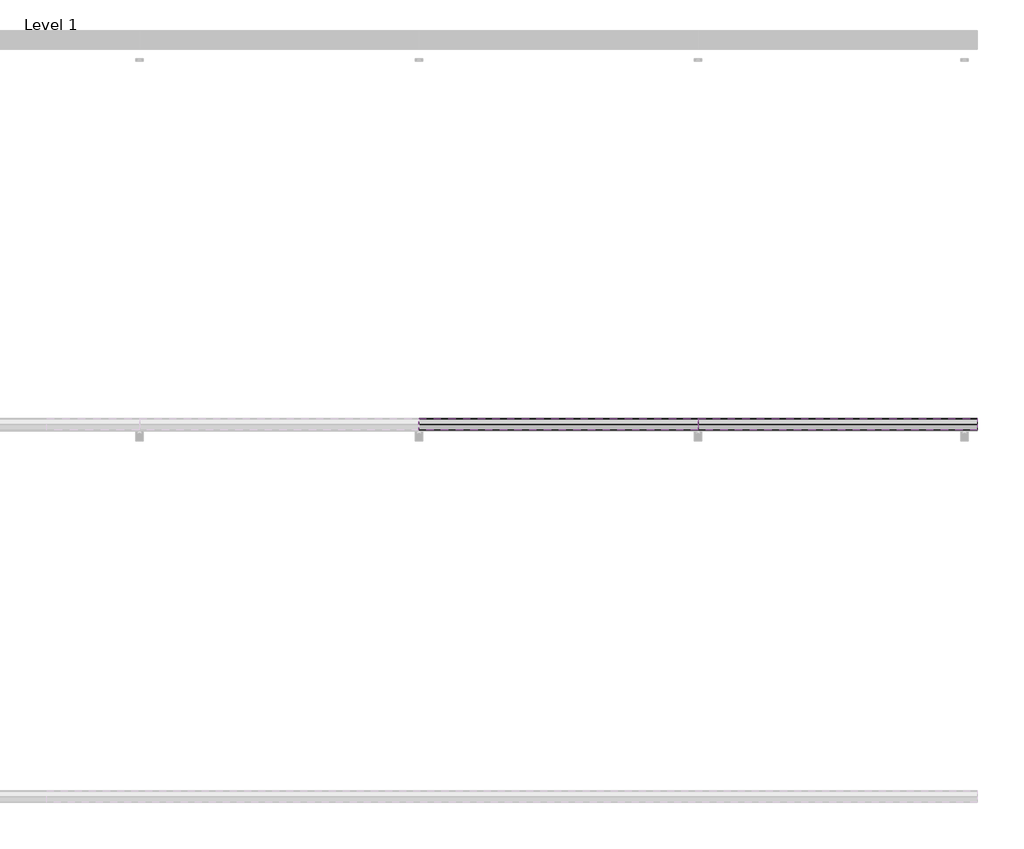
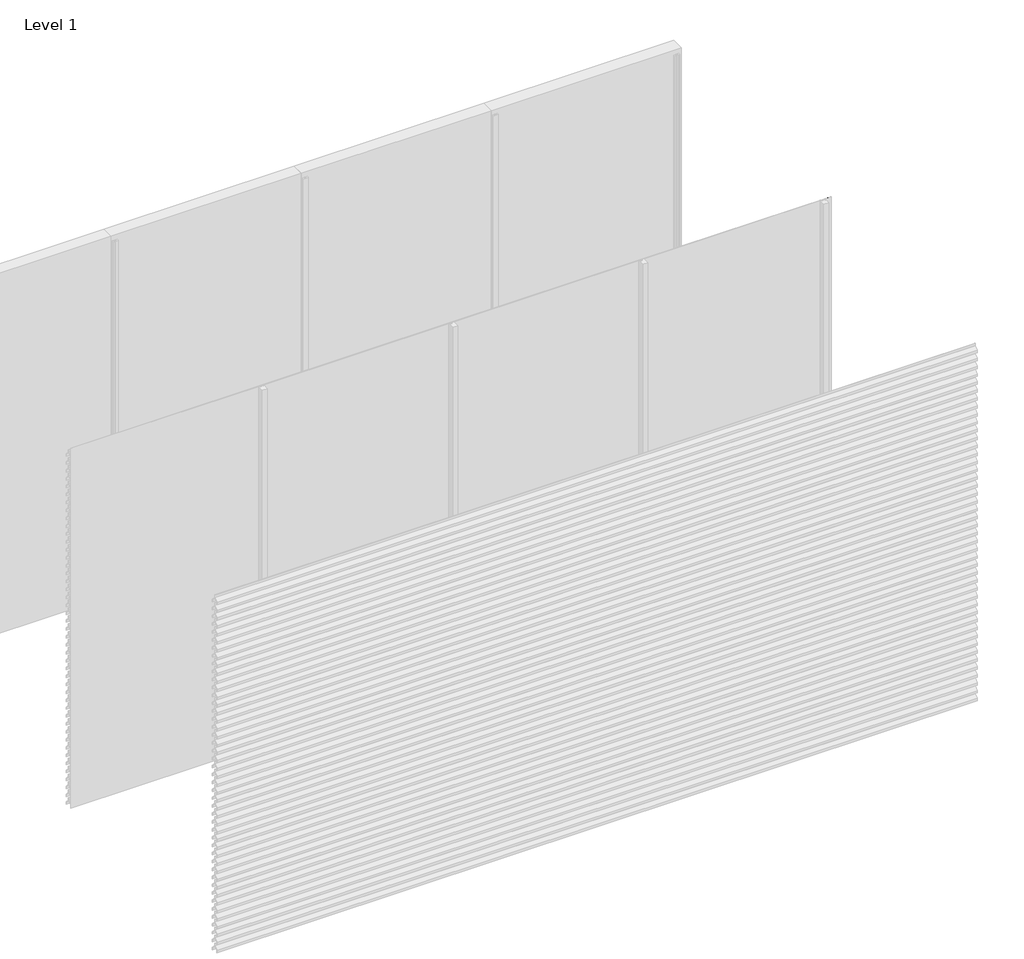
# One storey, part 18 of 35: 70 proxies.
"""IFC4 building model written with IfcOpenShell, lengths in millimetres."""

from ifc_helpers import new_model, si_unit, frame, origin, place, context, project, spatial, polyline, outline, extrude, element, save

model = new_model("IFC4")

# Units and contexts
model_context = context("Model", 3, world=origin())
ifc_project = project(units=[si_unit("LENGTHUNIT", "METRE", prefix="MILLI")], contexts=[model_context])

# Site, building, storey
site = spatial("IfcSite", under=ifc_project)
building = spatial("IfcBuilding", under=site)
storey = spatial("IfcBuildingStorey", under=building, Name="Level 1", Elevation=0.0)

# Proxies
placement = place(None, origin())
element("IfcBuildingElementProxy", 1, Name="Wall Sweeps", at=placement, inside=storey, context=model_context, shape_type="SweptSolid", body=[
    extrude(outline(polyline([(-29936.0, 1992.0), (-29936.0, 1972.0), (-29937.25, 1972.0), (-29937.25, 1991.4342979), (-29968.1138939, 2024.531772), (-29996.7, 2004.4392868), (-29996.7, 1985.6629874), (-29998.0, 1984.8506572), (-29998.0, 2005.1145472), (-29968.537525, 2025.823011), (-29968.537525, 2046.0), (-29967.1772624, 2046.0), (-29967.1772624, 2025.4335207), (-29936.0, 1992.0)])), frame((3000.0, 0.0, 0.0), z_axis=(1.0, 0.0, 0.0), x_axis=(0.0, 1.0, 0.0)), (0.0, 0.0, 1.0), 1500.0),
])
element("IfcBuildingElementProxy", 2, Name="Wall Sweeps", at=placement, inside=storey, context=model_context, shape_type="SweptSolid", body=[
    extrude(outline(polyline([(-29936.0, 1926.0), (-29936.0, 1906.0), (-29937.25, 1906.0), (-29937.25, 1925.4342979), (-29968.1138939, 1958.531772), (-29996.7, 1938.4392868), (-29996.7, 1919.6629874), (-29998.0, 1918.8506572), (-29998.0, 1939.1145472), (-29968.537525, 1959.823011), (-29968.537525, 1980.0), (-29967.1772624, 1980.0), (-29967.1772624, 1959.4335207), (-29936.0, 1926.0)])), frame((3000.0, 0.0, 0.0), z_axis=(1.0, 0.0, 0.0), x_axis=(0.0, 1.0, 0.0)), (0.0, 0.0, 1.0), 1500.0),
])
element("IfcBuildingElementProxy", 3, Name="Wall Sweeps", at=placement, inside=storey, context=model_context, shape_type="SweptSolid", body=[
    extrude(outline(polyline([(-29936.0, 1860.0), (-29936.0, 1840.0), (-29937.25, 1840.0), (-29937.25, 1859.4342979), (-29968.1138939, 1892.531772), (-29996.7, 1872.4392868), (-29996.7, 1853.6629874), (-29998.0, 1852.8506572), (-29998.0, 1873.1145472), (-29968.537525, 1893.823011), (-29968.537525, 1914.0), (-29967.1772624, 1914.0), (-29967.1772624, 1893.4335207), (-29936.0, 1860.0)])), frame((3000.0, 0.0, 0.0), z_axis=(1.0, 0.0, 0.0), x_axis=(0.0, 1.0, 0.0)), (0.0, 0.0, 1.0), 1500.0),
])
element("IfcBuildingElementProxy", 4, Name="Wall Sweeps", at=placement, inside=storey, context=model_context, shape_type="SweptSolid", body=[
    extrude(outline(polyline([(-29936.0, 1794.0), (-29936.0, 1774.0), (-29937.25, 1774.0), (-29937.25, 1793.4342979), (-29968.1138939, 1826.531772), (-29996.7, 1806.4392868), (-29996.7, 1787.6629874), (-29998.0, 1786.8506572), (-29998.0, 1807.1145472), (-29968.537525, 1827.823011), (-29968.537525, 1848.0), (-29967.1772624, 1848.0), (-29967.1772624, 1827.4335207), (-29936.0, 1794.0)])), frame((3000.0, 0.0, 0.0), z_axis=(1.0, 0.0, 0.0), x_axis=(0.0, 1.0, 0.0)), (0.0, 0.0, 1.0), 1500.0),
])
element("IfcBuildingElementProxy", 5, Name="Wall Sweeps", at=placement, inside=storey, context=model_context, shape_type="SweptSolid", body=[
    extrude(outline(polyline([(-29936.0, 1728.0), (-29936.0, 1708.0), (-29937.25, 1708.0), (-29937.25, 1727.4342979), (-29968.1138939, 1760.531772), (-29996.7, 1740.4392868), (-29996.7, 1721.6629874), (-29998.0, 1720.8506572), (-29998.0, 1741.1145472), (-29968.537525, 1761.823011), (-29968.537525, 1782.0), (-29967.1772624, 1782.0), (-29967.1772624, 1761.4335207), (-29936.0, 1728.0)])), frame((3000.0, 0.0, 0.0), z_axis=(1.0, 0.0, 0.0), x_axis=(0.0, 1.0, 0.0)), (0.0, 0.0, 1.0), 1500.0),
])
element("IfcBuildingElementProxy", 6, Name="Wall Sweeps", at=placement, inside=storey, context=model_context, shape_type="SweptSolid", body=[
    extrude(outline(polyline([(-29936.0, 1662.0), (-29936.0, 1642.0), (-29937.25, 1642.0), (-29937.25, 1661.4342979), (-29968.1138939, 1694.531772), (-29996.7, 1674.4392868), (-29996.7, 1655.6629874), (-29998.0, 1654.8506572), (-29998.0, 1675.1145472), (-29968.537525, 1695.823011), (-29968.537525, 1716.0), (-29967.1772624, 1716.0), (-29967.1772624, 1695.4335207), (-29936.0, 1662.0)])), frame((3000.0, 0.0, 0.0), z_axis=(1.0, 0.0, 0.0), x_axis=(0.0, 1.0, 0.0)), (0.0, 0.0, 1.0), 1500.0),
])
element("IfcBuildingElementProxy", 7, Name="Wall Sweeps", at=placement, inside=storey, context=model_context, shape_type="SweptSolid", body=[
    extrude(outline(polyline([(-29936.0, 1596.0), (-29936.0, 1576.0), (-29937.25, 1576.0), (-29937.25, 1595.4342979), (-29968.1138939, 1628.531772), (-29996.7, 1608.4392868), (-29996.7, 1589.6629874), (-29998.0, 1588.8506572), (-29998.0, 1609.1145472), (-29968.537525, 1629.823011), (-29968.537525, 1650.0), (-29967.1772624, 1650.0), (-29967.1772624, 1629.4335207), (-29936.0, 1596.0)])), frame((3000.0, 0.0, 0.0), z_axis=(1.0, 0.0, 0.0), x_axis=(0.0, 1.0, 0.0)), (0.0, 0.0, 1.0), 1500.0),
])
element("IfcBuildingElementProxy", 8, Name="Wall Sweeps", at=placement, inside=storey, context=model_context, shape_type="SweptSolid", body=[
    extrude(outline(polyline([(-29936.0, 1530.0), (-29936.0, 1510.0), (-29937.25, 1510.0), (-29937.25, 1529.4342979), (-29968.1138939, 1562.531772), (-29996.7, 1542.4392868), (-29996.7, 1523.6629874), (-29998.0, 1522.8506572), (-29998.0, 1543.1145472), (-29968.537525, 1563.823011), (-29968.537525, 1584.0), (-29967.1772624, 1584.0), (-29967.1772624, 1563.4335207), (-29936.0, 1530.0)])), frame((3000.0, 0.0, 0.0), z_axis=(1.0, 0.0, 0.0), x_axis=(0.0, 1.0, 0.0)), (0.0, 0.0, 1.0), 1500.0),
])
element("IfcBuildingElementProxy", 9, Name="Wall Sweeps", at=placement, inside=storey, context=model_context, shape_type="SweptSolid", body=[
    extrude(outline(polyline([(-29936.0, 1464.0), (-29936.0, 1444.0), (-29937.25, 1444.0), (-29937.25, 1463.4342979), (-29968.1138939, 1496.531772), (-29996.7, 1476.4392868), (-29996.7, 1457.6629874), (-29998.0, 1456.8506572), (-29998.0, 1477.1145472), (-29968.537525, 1497.823011), (-29968.537525, 1518.0), (-29967.1772624, 1518.0), (-29967.1772624, 1497.4335207), (-29936.0, 1464.0)])), frame((3000.0, 0.0, 0.0), z_axis=(1.0, 0.0, 0.0), x_axis=(0.0, 1.0, 0.0)), (0.0, 0.0, 1.0), 1500.0),
])
element("IfcBuildingElementProxy", 10, Name="Wall Sweeps", at=placement, inside=storey, context=model_context, shape_type="SweptSolid", body=[
    extrude(outline(polyline([(-29936.0, 1398.0), (-29936.0, 1378.0), (-29937.25, 1378.0), (-29937.25, 1397.4342979), (-29968.1138939, 1430.531772), (-29996.7, 1410.4392868), (-29996.7, 1391.6629874), (-29998.0, 1390.8506572), (-29998.0, 1411.1145472), (-29968.537525, 1431.823011), (-29968.537525, 1452.0), (-29967.1772624, 1452.0), (-29967.1772624, 1431.4335207), (-29936.0, 1398.0)])), frame((3000.0, 0.0, 0.0), z_axis=(1.0, 0.0, 0.0), x_axis=(0.0, 1.0, 0.0)), (0.0, 0.0, 1.0), 1500.0),
])
element("IfcBuildingElementProxy", 11, Name="Wall Sweeps", at=placement, inside=storey, context=model_context, shape_type="SweptSolid", body=[
    extrude(outline(polyline([(-29936.0, 1332.0), (-29936.0, 1312.0), (-29937.25, 1312.0), (-29937.25, 1331.4342979), (-29968.1138939, 1364.531772), (-29996.7, 1344.4392868), (-29996.7, 1325.6629874), (-29998.0, 1324.8506572), (-29998.0, 1345.1145472), (-29968.537525, 1365.823011), (-29968.537525, 1386.0), (-29967.1772624, 1386.0), (-29967.1772624, 1365.4335207), (-29936.0, 1332.0)])), frame((3000.0, 0.0, 0.0), z_axis=(1.0, 0.0, 0.0), x_axis=(0.0, 1.0, 0.0)), (0.0, 0.0, 1.0), 1500.0),
])
element("IfcBuildingElementProxy", 12, Name="Wall Sweeps", at=placement, inside=storey, context=model_context, shape_type="SweptSolid", body=[
    extrude(outline(polyline([(-29936.0, 1266.0), (-29936.0, 1246.0), (-29937.25, 1246.0), (-29937.25, 1265.4342979), (-29968.1138939, 1298.531772), (-29996.7, 1278.4392868), (-29996.7, 1259.6629874), (-29998.0, 1258.8506572), (-29998.0, 1279.1145472), (-29968.537525, 1299.823011), (-29968.537525, 1320.0), (-29967.1772624, 1320.0), (-29967.1772624, 1299.4335207), (-29936.0, 1266.0)])), frame((3000.0, 0.0, 0.0), z_axis=(1.0, 0.0, 0.0), x_axis=(0.0, 1.0, 0.0)), (0.0, 0.0, 1.0), 1500.0),
])
element("IfcBuildingElementProxy", 13, Name="Wall Sweeps", at=placement, inside=storey, context=model_context, shape_type="SweptSolid", body=[
    extrude(outline(polyline([(-29936.0, 1200.0), (-29936.0, 1180.0), (-29937.25, 1180.0), (-29937.25, 1199.4342979), (-29968.1138939, 1232.531772), (-29996.7, 1212.4392868), (-29996.7, 1193.6629874), (-29998.0, 1192.8506572), (-29998.0, 1213.1145472), (-29968.537525, 1233.823011), (-29968.537525, 1254.0), (-29967.1772624, 1254.0), (-29967.1772624, 1233.4335207), (-29936.0, 1200.0)])), frame((3000.0, 0.0, 0.0), z_axis=(1.0, 0.0, 0.0), x_axis=(0.0, 1.0, 0.0)), (0.0, 0.0, 1.0), 1500.0),
])
element("IfcBuildingElementProxy", 14, Name="Wall Sweeps", at=placement, inside=storey, context=model_context, shape_type="SweptSolid", body=[
    extrude(outline(polyline([(-29936.0, 1134.0), (-29936.0, 1114.0), (-29937.25, 1114.0), (-29937.25, 1133.4342979), (-29968.1138939, 1166.531772), (-29996.7, 1146.4392868), (-29996.7, 1127.6629874), (-29998.0, 1126.8506572), (-29998.0, 1147.1145472), (-29968.537525, 1167.823011), (-29968.537525, 1188.0), (-29967.1772624, 1188.0), (-29967.1772624, 1167.4335207), (-29936.0, 1134.0)])), frame((3000.0, 0.0, 0.0), z_axis=(1.0, 0.0, 0.0), x_axis=(0.0, 1.0, 0.0)), (0.0, 0.0, 1.0), 1500.0),
])
element("IfcBuildingElementProxy", 15, Name="Wall Sweeps", at=placement, inside=storey, context=model_context, shape_type="SweptSolid", body=[
    extrude(outline(polyline([(-29936.0, 1068.0), (-29936.0, 1048.0), (-29937.25, 1048.0), (-29937.25, 1067.4342979), (-29968.1138939, 1100.531772), (-29996.7, 1080.4392868), (-29996.7, 1061.6629874), (-29998.0, 1060.8506572), (-29998.0, 1081.1145472), (-29968.537525, 1101.823011), (-29968.537525, 1122.0), (-29967.1772624, 1122.0), (-29967.1772624, 1101.4335207), (-29936.0, 1068.0)])), frame((3000.0, 0.0, 0.0), z_axis=(1.0, 0.0, 0.0), x_axis=(0.0, 1.0, 0.0)), (0.0, 0.0, 1.0), 1500.0),
])
element("IfcBuildingElementProxy", 16, Name="Wall Sweeps", at=placement, inside=storey, context=model_context, shape_type="SweptSolid", body=[
    extrude(outline(polyline([(-29936.0, 1002.0), (-29936.0, 982.0), (-29937.25, 982.0), (-29937.25, 1001.4342979), (-29968.1138939, 1034.531772), (-29996.7, 1014.4392868), (-29996.7, 995.6629874), (-29998.0, 994.8506572), (-29998.0, 1015.1145472), (-29968.537525, 1035.823011), (-29968.537525, 1056.0), (-29967.1772624, 1056.0), (-29967.1772624, 1035.4335207), (-29936.0, 1002.0)])), frame((3000.0, 0.0, 0.0), z_axis=(1.0, 0.0, 0.0), x_axis=(0.0, 1.0, 0.0)), (0.0, 0.0, 1.0), 1500.0),
])
element("IfcBuildingElementProxy", 17, Name="Wall Sweeps", at=placement, inside=storey, context=model_context, shape_type="SweptSolid", body=[
    extrude(outline(polyline([(-29936.0, 936.0), (-29936.0, 916.0), (-29937.25, 916.0), (-29937.25, 935.4342979), (-29968.1138939, 968.531772), (-29996.7, 948.4392868), (-29996.7, 929.6629874), (-29998.0, 928.8506572), (-29998.0, 949.1145472), (-29968.537525, 969.823011), (-29968.537525, 990.0), (-29967.1772624, 990.0), (-29967.1772624, 969.4335207), (-29936.0, 936.0)])), frame((3000.0, 0.0, 0.0), z_axis=(1.0, 0.0, 0.0), x_axis=(0.0, 1.0, 0.0)), (0.0, 0.0, 1.0), 1500.0),
])
element("IfcBuildingElementProxy", 18, Name="Wall Sweeps", at=placement, inside=storey, context=model_context, shape_type="SweptSolid", body=[
    extrude(outline(polyline([(-29936.0, 870.0), (-29936.0, 850.0), (-29937.25, 850.0), (-29937.25, 869.4342979), (-29968.1138939, 902.531772), (-29996.7, 882.4392868), (-29996.7, 863.6629874), (-29998.0, 862.8506572), (-29998.0, 883.1145472), (-29968.537525, 903.823011), (-29968.537525, 924.0), (-29967.1772624, 924.0), (-29967.1772624, 903.4335207), (-29936.0, 870.0)])), frame((3000.0, 0.0, 0.0), z_axis=(1.0, 0.0, 0.0), x_axis=(0.0, 1.0, 0.0)), (0.0, 0.0, 1.0), 1500.0),
])
element("IfcBuildingElementProxy", 19, Name="Wall Sweeps", at=placement, inside=storey, context=model_context, shape_type="SweptSolid", body=[
    extrude(outline(polyline([(-29936.0, 804.0), (-29936.0, 784.0), (-29937.25, 784.0), (-29937.25, 803.4342979), (-29968.1138939, 836.531772), (-29996.7, 816.4392868), (-29996.7, 797.6629874), (-29998.0, 796.8506572), (-29998.0, 817.1145472), (-29968.537525, 837.823011), (-29968.537525, 858.0), (-29967.1772624, 858.0), (-29967.1772624, 837.4335207), (-29936.0, 804.0)])), frame((3000.0, 0.0, 0.0), z_axis=(1.0, 0.0, 0.0), x_axis=(0.0, 1.0, 0.0)), (0.0, 0.0, 1.0), 1500.0),
])
element("IfcBuildingElementProxy", 20, Name="Wall Sweeps", at=placement, inside=storey, context=model_context, shape_type="SweptSolid", body=[
    extrude(outline(polyline([(-29936.0, 738.0), (-29936.0, 718.0), (-29937.25, 718.0), (-29937.25, 737.4342979), (-29968.1138939, 770.531772), (-29996.7, 750.4392868), (-29996.7, 731.6629874), (-29998.0, 730.8506572), (-29998.0, 751.1145472), (-29968.537525, 771.823011), (-29968.537525, 792.0), (-29967.1772624, 792.0), (-29967.1772624, 771.4335207), (-29936.0, 738.0)])), frame((3000.0, 0.0, 0.0), z_axis=(1.0, 0.0, 0.0), x_axis=(0.0, 1.0, 0.0)), (0.0, 0.0, 1.0), 1500.0),
])
element("IfcBuildingElementProxy", 21, Name="Wall Sweeps", at=placement, inside=storey, context=model_context, shape_type="SweptSolid", body=[
    extrude(outline(polyline([(-29936.0, 672.0), (-29936.0, 652.0), (-29937.25, 652.0), (-29937.25, 671.4342979), (-29968.1138939, 704.531772), (-29996.7, 684.4392868), (-29996.7, 665.6629874), (-29998.0, 664.8506572), (-29998.0, 685.1145472), (-29968.537525, 705.823011), (-29968.537525, 726.0), (-29967.1772624, 726.0), (-29967.1772624, 705.4335207), (-29936.0, 672.0)])), frame((3000.0, 0.0, 0.0), z_axis=(1.0, 0.0, 0.0), x_axis=(0.0, 1.0, 0.0)), (0.0, 0.0, 1.0), 1500.0),
])
element("IfcBuildingElementProxy", 22, Name="Wall Sweeps", at=placement, inside=storey, context=model_context, shape_type="SweptSolid", body=[
    extrude(outline(polyline([(-29936.0, 606.0), (-29936.0, 586.0), (-29937.25, 586.0), (-29937.25, 605.4342979), (-29968.1138939, 638.531772), (-29996.7, 618.4392868), (-29996.7, 599.6629874), (-29998.0, 598.8506572), (-29998.0, 619.1145472), (-29968.537525, 639.823011), (-29968.537525, 660.0), (-29967.1772624, 660.0), (-29967.1772624, 639.4335207), (-29936.0, 606.0)])), frame((3000.0, 0.0, 0.0), z_axis=(1.0, 0.0, 0.0), x_axis=(0.0, 1.0, 0.0)), (0.0, 0.0, 1.0), 1500.0),
])
element("IfcBuildingElementProxy", 23, Name="Wall Sweeps", at=placement, inside=storey, context=model_context, shape_type="SweptSolid", body=[
    extrude(outline(polyline([(-29936.0, 540.0), (-29936.0, 520.0), (-29937.25, 520.0), (-29937.25, 539.4342979), (-29968.1138939, 572.531772), (-29996.7, 552.4392868), (-29996.7, 533.6629874), (-29998.0, 532.8506572), (-29998.0, 553.1145472), (-29968.537525, 573.823011), (-29968.537525, 594.0), (-29967.1772624, 594.0), (-29967.1772624, 573.4335207), (-29936.0, 540.0)])), frame((3000.0, 0.0, 0.0), z_axis=(1.0, 0.0, 0.0), x_axis=(0.0, 1.0, 0.0)), (0.0, 0.0, 1.0), 1500.0),
])
element("IfcBuildingElementProxy", 24, Name="Wall Sweeps", at=placement, inside=storey, context=model_context, shape_type="SweptSolid", body=[
    extrude(outline(polyline([(-29936.0, 474.0), (-29936.0, 454.0), (-29937.25, 454.0), (-29937.25, 473.4342979), (-29968.1138939, 506.531772), (-29996.7, 486.4392868), (-29996.7, 467.6629874), (-29998.0, 466.8506572), (-29998.0, 487.1145472), (-29968.537525, 507.823011), (-29968.537525, 528.0), (-29967.1772624, 528.0), (-29967.1772624, 507.4335207), (-29936.0, 474.0)])), frame((3000.0, 0.0, 0.0), z_axis=(1.0, 0.0, 0.0), x_axis=(0.0, 1.0, 0.0)), (0.0, 0.0, 1.0), 1500.0),
])
element("IfcBuildingElementProxy", 25, Name="Wall Sweeps", at=placement, inside=storey, context=model_context, shape_type="SweptSolid", body=[
    extrude(outline(polyline([(-29936.0, 408.0), (-29936.0, 388.0), (-29937.25, 388.0), (-29937.25, 407.4342979), (-29968.1138939, 440.531772), (-29996.7, 420.4392868), (-29996.7, 401.6629874), (-29998.0, 400.8506572), (-29998.0, 421.1145472), (-29968.537525, 441.823011), (-29968.537525, 462.0), (-29967.1772624, 462.0), (-29967.1772624, 441.4335207), (-29936.0, 408.0)])), frame((3000.0, 0.0, 0.0), z_axis=(1.0, 0.0, 0.0), x_axis=(0.0, 1.0, 0.0)), (0.0, 0.0, 1.0), 1500.0),
])
element("IfcBuildingElementProxy", 26, Name="Wall Sweeps", at=placement, inside=storey, context=model_context, shape_type="SweptSolid", body=[
    extrude(outline(polyline([(-29936.0, 342.0), (-29936.0, 322.0), (-29937.25, 322.0), (-29937.25, 341.4342979), (-29968.1138939, 374.531772), (-29996.7, 354.4392868), (-29996.7, 335.6629874), (-29998.0, 334.8506572), (-29998.0, 355.1145472), (-29968.537525, 375.823011), (-29968.537525, 396.0), (-29967.1772624, 396.0), (-29967.1772624, 375.4335207), (-29936.0, 342.0)])), frame((3000.0, 0.0, 0.0), z_axis=(1.0, 0.0, 0.0), x_axis=(0.0, 1.0, 0.0)), (0.0, 0.0, 1.0), 1500.0),
])
element("IfcBuildingElementProxy", 27, Name="Wall Sweeps", at=placement, inside=storey, context=model_context, shape_type="SweptSolid", body=[
    extrude(outline(polyline([(-29936.0, 276.0), (-29936.0, 256.0), (-29937.25, 256.0), (-29937.25, 275.4342979), (-29968.1138939, 308.531772), (-29996.7, 288.4392868), (-29996.7, 269.6629874), (-29998.0, 268.8506572), (-29998.0, 289.1145472), (-29968.537525, 309.823011), (-29968.537525, 330.0), (-29967.1772624, 330.0), (-29967.1772624, 309.4335207), (-29936.0, 276.0)])), frame((3000.0, 0.0, 0.0), z_axis=(1.0, 0.0, 0.0), x_axis=(0.0, 1.0, 0.0)), (0.0, 0.0, 1.0), 1500.0),
])
element("IfcBuildingElementProxy", 28, Name="Wall Sweeps", at=placement, inside=storey, context=model_context, shape_type="SweptSolid", body=[
    extrude(outline(polyline([(-29936.0, 210.0), (-29936.0, 190.0), (-29937.25, 190.0), (-29937.25, 209.4342979), (-29968.1138939, 242.531772), (-29996.7, 222.4392868), (-29996.7, 203.6629874), (-29998.0, 202.8506572), (-29998.0, 223.1145472), (-29968.537525, 243.823011), (-29968.537525, 264.0), (-29967.1772624, 264.0), (-29967.1772624, 243.4335207), (-29936.0, 210.0)])), frame((3000.0, 0.0, 0.0), z_axis=(1.0, 0.0, 0.0), x_axis=(0.0, 1.0, 0.0)), (0.0, 0.0, 1.0), 1500.0),
])
element("IfcBuildingElementProxy", 29, Name="Wall Sweeps", at=placement, inside=storey, context=model_context, shape_type="SweptSolid", body=[
    extrude(outline(polyline([(-29936.0, 144.0), (-29936.0, 124.0), (-29937.25, 124.0), (-29937.25, 143.4342979), (-29968.1138939, 176.531772), (-29996.7, 156.4392868), (-29996.7, 137.6629874), (-29998.0, 136.8506572), (-29998.0, 157.1145472), (-29968.537525, 177.823011), (-29968.537525, 198.0), (-29967.1772624, 198.0), (-29967.1772624, 177.4335207), (-29936.0, 144.0)])), frame((3000.0, 0.0, 0.0), z_axis=(1.0, 0.0, 0.0), x_axis=(0.0, 1.0, 0.0)), (0.0, 0.0, 1.0), 1500.0),
])
element("IfcBuildingElementProxy", 30, Name="Wall Sweeps", at=placement, inside=storey, context=model_context, shape_type="SweptSolid", body=[
    extrude(outline(polyline([(-29936.0, 78.0), (-29936.0, 58.0), (-29937.25, 58.0), (-29937.25, 77.4342979), (-29968.1138939, 110.531772), (-29996.7, 90.4392868), (-29996.7, 71.6629874), (-29998.0, 70.8506572), (-29998.0, 91.1145472), (-29968.537525, 111.823011), (-29968.537525, 132.0), (-29967.1772624, 132.0), (-29967.1772624, 111.4335207), (-29936.0, 78.0)])), frame((3000.0, 0.0, 0.0), z_axis=(1.0, 0.0, 0.0), x_axis=(0.0, 1.0, 0.0)), (0.0, 0.0, 1.0), 1500.0),
])
element("IfcBuildingElementProxy", 31, Name="Wall Sweeps", at=placement, inside=storey, context=model_context, shape_type="SweptSolid", body=[
    extrude(outline(polyline([(-29936.0, 12.0), (-29936.0, -8.0), (-29937.25, -8.0), (-29937.25, 11.4342979), (-29968.1138939, 44.531772), (-29996.7, 24.4392868), (-29996.7, 5.6629874), (-29998.0, 4.8506572), (-29998.0, 25.1145472), (-29968.537525, 45.823011), (-29968.537525, 66.0), (-29967.1772624, 66.0), (-29967.1772624, 45.4335207), (-29936.0, 12.0)])), frame((3000.0, 0.0, 0.0), z_axis=(1.0, 0.0, 0.0), x_axis=(0.0, 1.0, 0.0)), (0.0, 0.0, 1.0), 1500.0),
])
element("IfcBuildingElementProxy", 32, Name="Wall Sweeps", at=placement, inside=storey, context=model_context, shape_type="SweptSolid", body=[
    extrude(outline(polyline([(-29936.0, 2916.0), (-29936.0, 2896.0), (-29937.25, 2896.0), (-29937.25, 2915.4342979), (-29968.1138939, 2948.531772), (-29996.7, 2928.4392868), (-29996.7, 2909.6629874), (-29998.0, 2908.8506572), (-29998.0, 2929.1145472), (-29968.537525, 2949.823011), (-29968.537525, 2970.0), (-29967.1772624, 2970.0), (-29967.1772624, 2949.4335207), (-29936.0, 2916.0)])), frame((4500.0, 0.0, 0.0), z_axis=(1.0, 0.0, 0.0), x_axis=(0.0, 1.0, 0.0)), (0.0, 0.0, 1.0), 1500.0),
])
element("IfcBuildingElementProxy", 33, Name="Wall Sweeps", at=placement, inside=storey, context=model_context, shape_type="SweptSolid", body=[
    extrude(outline(polyline([(-29936.0, 2850.0), (-29936.0, 2830.0), (-29937.25, 2830.0), (-29937.25, 2849.4342979), (-29968.1138939, 2882.531772), (-29996.7, 2862.4392868), (-29996.7, 2843.6629874), (-29998.0, 2842.8506572), (-29998.0, 2863.1145472), (-29968.537525, 2883.823011), (-29968.537525, 2904.0), (-29967.1772624, 2904.0), (-29967.1772624, 2883.4335207), (-29936.0, 2850.0)])), frame((4500.0, 0.0, 0.0), z_axis=(1.0, 0.0, 0.0), x_axis=(0.0, 1.0, 0.0)), (0.0, 0.0, 1.0), 1500.0),
])
element("IfcBuildingElementProxy", 34, Name="Wall Sweeps", at=placement, inside=storey, context=model_context, shape_type="SweptSolid", body=[
    extrude(outline(polyline([(-29936.0, 2784.0), (-29936.0, 2764.0), (-29937.25, 2764.0), (-29937.25, 2783.4342979), (-29968.1138939, 2816.531772), (-29996.7, 2796.4392868), (-29996.7, 2777.6629874), (-29998.0, 2776.8506572), (-29998.0, 2797.1145472), (-29968.537525, 2817.823011), (-29968.537525, 2838.0), (-29967.1772624, 2838.0), (-29967.1772624, 2817.4335207), (-29936.0, 2784.0)])), frame((4500.0, 0.0, 0.0), z_axis=(1.0, 0.0, 0.0), x_axis=(0.0, 1.0, 0.0)), (0.0, 0.0, 1.0), 1500.0),
])
element("IfcBuildingElementProxy", 35, Name="Wall Sweeps", at=placement, inside=storey, context=model_context, shape_type="SweptSolid", body=[
    extrude(outline(polyline([(-29936.0, 2718.0), (-29936.0, 2698.0), (-29937.25, 2698.0), (-29937.25, 2717.4342979), (-29968.1138939, 2750.531772), (-29996.7, 2730.4392868), (-29996.7, 2711.6629874), (-29998.0, 2710.8506572), (-29998.0, 2731.1145472), (-29968.537525, 2751.823011), (-29968.537525, 2772.0), (-29967.1772624, 2772.0), (-29967.1772624, 2751.4335207), (-29936.0, 2718.0)])), frame((4500.0, 0.0, 0.0), z_axis=(1.0, 0.0, 0.0), x_axis=(0.0, 1.0, 0.0)), (0.0, 0.0, 1.0), 1500.0),
])
element("IfcBuildingElementProxy", 36, Name="Wall Sweeps", at=placement, inside=storey, context=model_context, shape_type="SweptSolid", body=[
    extrude(outline(polyline([(-29936.0, 2652.0), (-29936.0, 2632.0), (-29937.25, 2632.0), (-29937.25, 2651.4342979), (-29968.1138939, 2684.531772), (-29996.7, 2664.4392868), (-29996.7, 2645.6629874), (-29998.0, 2644.8506572), (-29998.0, 2665.1145472), (-29968.537525, 2685.823011), (-29968.537525, 2706.0), (-29967.1772624, 2706.0), (-29967.1772624, 2685.4335207), (-29936.0, 2652.0)])), frame((4500.0, 0.0, 0.0), z_axis=(1.0, 0.0, 0.0), x_axis=(0.0, 1.0, 0.0)), (0.0, 0.0, 1.0), 1500.0),
])
element("IfcBuildingElementProxy", 37, Name="Wall Sweeps", at=placement, inside=storey, context=model_context, shape_type="SweptSolid", body=[
    extrude(outline(polyline([(-29936.0, 2586.0), (-29936.0, 2566.0), (-29937.25, 2566.0), (-29937.25, 2585.4342979), (-29968.1138939, 2618.531772), (-29996.7, 2598.4392868), (-29996.7, 2579.6629874), (-29998.0, 2578.8506572), (-29998.0, 2599.1145472), (-29968.537525, 2619.823011), (-29968.537525, 2640.0), (-29967.1772624, 2640.0), (-29967.1772624, 2619.4335207), (-29936.0, 2586.0)])), frame((4500.0, 0.0, 0.0), z_axis=(1.0, 0.0, 0.0), x_axis=(0.0, 1.0, 0.0)), (0.0, 0.0, 1.0), 1500.0),
])
element("IfcBuildingElementProxy", 38, Name="Wall Sweeps", at=placement, inside=storey, context=model_context, shape_type="SweptSolid", body=[
    extrude(outline(polyline([(-29936.0, 2520.0), (-29936.0, 2500.0), (-29937.25, 2500.0), (-29937.25, 2519.4342979), (-29968.1138939, 2552.531772), (-29996.7, 2532.4392868), (-29996.7, 2513.6629874), (-29998.0, 2512.8506572), (-29998.0, 2533.1145472), (-29968.537525, 2553.823011), (-29968.537525, 2574.0), (-29967.1772624, 2574.0), (-29967.1772624, 2553.4335207), (-29936.0, 2520.0)])), frame((4500.0, 0.0, 0.0), z_axis=(1.0, 0.0, 0.0), x_axis=(0.0, 1.0, 0.0)), (0.0, 0.0, 1.0), 1500.0),
])
element("IfcBuildingElementProxy", 39, Name="Wall Sweeps", at=placement, inside=storey, context=model_context, shape_type="SweptSolid", body=[
    extrude(outline(polyline([(-29936.0, 2454.0), (-29936.0, 2434.0), (-29937.25, 2434.0), (-29937.25, 2453.4342979), (-29968.1138939, 2486.531772), (-29996.7, 2466.4392868), (-29996.7, 2447.6629874), (-29998.0, 2446.8506572), (-29998.0, 2467.1145472), (-29968.537525, 2487.823011), (-29968.537525, 2508.0), (-29967.1772624, 2508.0), (-29967.1772624, 2487.4335207), (-29936.0, 2454.0)])), frame((4500.0, 0.0, 0.0), z_axis=(1.0, 0.0, 0.0), x_axis=(0.0, 1.0, 0.0)), (0.0, 0.0, 1.0), 1500.0),
])
element("IfcBuildingElementProxy", 40, Name="Wall Sweeps", at=placement, inside=storey, context=model_context, shape_type="SweptSolid", body=[
    extrude(outline(polyline([(-29936.0, 2388.0), (-29936.0, 2368.0), (-29937.25, 2368.0), (-29937.25, 2387.4342979), (-29968.1138939, 2420.531772), (-29996.7, 2400.4392868), (-29996.7, 2381.6629874), (-29998.0, 2380.8506572), (-29998.0, 2401.1145472), (-29968.537525, 2421.823011), (-29968.537525, 2442.0), (-29967.1772624, 2442.0), (-29967.1772624, 2421.4335207), (-29936.0, 2388.0)])), frame((4500.0, 0.0, 0.0), z_axis=(1.0, 0.0, 0.0), x_axis=(0.0, 1.0, 0.0)), (0.0, 0.0, 1.0), 1500.0),
])
element("IfcBuildingElementProxy", 41, Name="Wall Sweeps", at=placement, inside=storey, context=model_context, shape_type="SweptSolid", body=[
    extrude(outline(polyline([(-29936.0, 2322.0), (-29936.0, 2302.0), (-29937.25, 2302.0), (-29937.25, 2321.4342979), (-29968.1138939, 2354.531772), (-29996.7, 2334.4392868), (-29996.7, 2315.6629874), (-29998.0, 2314.8506572), (-29998.0, 2335.1145472), (-29968.537525, 2355.823011), (-29968.537525, 2376.0), (-29967.1772624, 2376.0), (-29967.1772624, 2355.4335207), (-29936.0, 2322.0)])), frame((4500.0, 0.0, 0.0), z_axis=(1.0, 0.0, 0.0), x_axis=(0.0, 1.0, 0.0)), (0.0, 0.0, 1.0), 1500.0),
])
element("IfcBuildingElementProxy", 42, Name="Wall Sweeps", at=placement, inside=storey, context=model_context, shape_type="SweptSolid", body=[
    extrude(outline(polyline([(-29936.0, 2256.0), (-29936.0, 2236.0), (-29937.25, 2236.0), (-29937.25, 2255.4342979), (-29968.1138939, 2288.531772), (-29996.7, 2268.4392868), (-29996.7, 2249.6629874), (-29998.0, 2248.8506572), (-29998.0, 2269.1145472), (-29968.537525, 2289.823011), (-29968.537525, 2310.0), (-29967.1772624, 2310.0), (-29967.1772624, 2289.4335207), (-29936.0, 2256.0)])), frame((4500.0, 0.0, 0.0), z_axis=(1.0, 0.0, 0.0), x_axis=(0.0, 1.0, 0.0)), (0.0, 0.0, 1.0), 1500.0),
])
element("IfcBuildingElementProxy", 43, Name="Wall Sweeps", at=placement, inside=storey, context=model_context, shape_type="SweptSolid", body=[
    extrude(outline(polyline([(-29936.0, 2190.0), (-29936.0, 2170.0), (-29937.25, 2170.0), (-29937.25, 2189.4342979), (-29968.1138939, 2222.531772), (-29996.7, 2202.4392868), (-29996.7, 2183.6629874), (-29998.0, 2182.8506572), (-29998.0, 2203.1145472), (-29968.537525, 2223.823011), (-29968.537525, 2244.0), (-29967.1772624, 2244.0), (-29967.1772624, 2223.4335207), (-29936.0, 2190.0)])), frame((4500.0, 0.0, 0.0), z_axis=(1.0, 0.0, 0.0), x_axis=(0.0, 1.0, 0.0)), (0.0, 0.0, 1.0), 1500.0),
])
element("IfcBuildingElementProxy", 44, Name="Wall Sweeps", at=placement, inside=storey, context=model_context, shape_type="SweptSolid", body=[
    extrude(outline(polyline([(-29936.0, 2124.0), (-29936.0, 2104.0), (-29937.25, 2104.0), (-29937.25, 2123.4342979), (-29968.1138939, 2156.531772), (-29996.7, 2136.4392868), (-29996.7, 2117.6629874), (-29998.0, 2116.8506572), (-29998.0, 2137.1145472), (-29968.537525, 2157.823011), (-29968.537525, 2178.0), (-29967.1772624, 2178.0), (-29967.1772624, 2157.4335207), (-29936.0, 2124.0)])), frame((4500.0, 0.0, 0.0), z_axis=(1.0, 0.0, 0.0), x_axis=(0.0, 1.0, 0.0)), (0.0, 0.0, 1.0), 1500.0),
])
element("IfcBuildingElementProxy", 45, Name="Wall Sweeps", at=placement, inside=storey, context=model_context, shape_type="SweptSolid", body=[
    extrude(outline(polyline([(-29936.0, 2058.0), (-29936.0, 2038.0), (-29937.25, 2038.0), (-29937.25, 2057.4342979), (-29968.1138939, 2090.531772), (-29996.7, 2070.4392868), (-29996.7, 2051.6629874), (-29998.0, 2050.8506572), (-29998.0, 2071.1145472), (-29968.537525, 2091.823011), (-29968.537525, 2112.0), (-29967.1772624, 2112.0), (-29967.1772624, 2091.4335207), (-29936.0, 2058.0)])), frame((4500.0, 0.0, 0.0), z_axis=(1.0, 0.0, 0.0), x_axis=(0.0, 1.0, 0.0)), (0.0, 0.0, 1.0), 1500.0),
])
element("IfcBuildingElementProxy", 46, Name="Wall Sweeps", at=placement, inside=storey, context=model_context, shape_type="SweptSolid", body=[
    extrude(outline(polyline([(-29936.0, 1992.0), (-29936.0, 1972.0), (-29937.25, 1972.0), (-29937.25, 1991.4342979), (-29968.1138939, 2024.531772), (-29996.7, 2004.4392868), (-29996.7, 1985.6629874), (-29998.0, 1984.8506572), (-29998.0, 2005.1145472), (-29968.537525, 2025.823011), (-29968.537525, 2046.0), (-29967.1772624, 2046.0), (-29967.1772624, 2025.4335207), (-29936.0, 1992.0)])), frame((4500.0, 0.0, 0.0), z_axis=(1.0, 0.0, 0.0), x_axis=(0.0, 1.0, 0.0)), (0.0, 0.0, 1.0), 1500.0),
])
element("IfcBuildingElementProxy", 47, Name="Wall Sweeps", at=placement, inside=storey, context=model_context, shape_type="SweptSolid", body=[
    extrude(outline(polyline([(-29936.0, 1926.0), (-29936.0, 1906.0), (-29937.25, 1906.0), (-29937.25, 1925.4342979), (-29968.1138939, 1958.531772), (-29996.7, 1938.4392868), (-29996.7, 1919.6629874), (-29998.0, 1918.8506572), (-29998.0, 1939.1145472), (-29968.537525, 1959.823011), (-29968.537525, 1980.0), (-29967.1772624, 1980.0), (-29967.1772624, 1959.4335207), (-29936.0, 1926.0)])), frame((4500.0, 0.0, 0.0), z_axis=(1.0, 0.0, 0.0), x_axis=(0.0, 1.0, 0.0)), (0.0, 0.0, 1.0), 1500.0),
])
element("IfcBuildingElementProxy", 48, Name="Wall Sweeps", at=placement, inside=storey, context=model_context, shape_type="SweptSolid", body=[
    extrude(outline(polyline([(-29936.0, 1860.0), (-29936.0, 1840.0), (-29937.25, 1840.0), (-29937.25, 1859.4342979), (-29968.1138939, 1892.531772), (-29996.7, 1872.4392868), (-29996.7, 1853.6629874), (-29998.0, 1852.8506572), (-29998.0, 1873.1145472), (-29968.537525, 1893.823011), (-29968.537525, 1914.0), (-29967.1772624, 1914.0), (-29967.1772624, 1893.4335207), (-29936.0, 1860.0)])), frame((4500.0, 0.0, 0.0), z_axis=(1.0, 0.0, 0.0), x_axis=(0.0, 1.0, 0.0)), (0.0, 0.0, 1.0), 1500.0),
])
element("IfcBuildingElementProxy", 49, Name="Wall Sweeps", at=placement, inside=storey, context=model_context, shape_type="SweptSolid", body=[
    extrude(outline(polyline([(-29936.0, 1794.0), (-29936.0, 1774.0), (-29937.25, 1774.0), (-29937.25, 1793.4342979), (-29968.1138939, 1826.531772), (-29996.7, 1806.4392868), (-29996.7, 1787.6629874), (-29998.0, 1786.8506572), (-29998.0, 1807.1145472), (-29968.537525, 1827.823011), (-29968.537525, 1848.0), (-29967.1772624, 1848.0), (-29967.1772624, 1827.4335207), (-29936.0, 1794.0)])), frame((4500.0, 0.0, 0.0), z_axis=(1.0, 0.0, 0.0), x_axis=(0.0, 1.0, 0.0)), (0.0, 0.0, 1.0), 1500.0),
])
element("IfcBuildingElementProxy", 50, Name="Wall Sweeps", at=placement, inside=storey, context=model_context, shape_type="SweptSolid", body=[
    extrude(outline(polyline([(-29936.0, 1728.0), (-29936.0, 1708.0), (-29937.25, 1708.0), (-29937.25, 1727.4342979), (-29968.1138939, 1760.531772), (-29996.7, 1740.4392868), (-29996.7, 1721.6629874), (-29998.0, 1720.8506572), (-29998.0, 1741.1145472), (-29968.537525, 1761.823011), (-29968.537525, 1782.0), (-29967.1772624, 1782.0), (-29967.1772624, 1761.4335207), (-29936.0, 1728.0)])), frame((4500.0, 0.0, 0.0), z_axis=(1.0, 0.0, 0.0), x_axis=(0.0, 1.0, 0.0)), (0.0, 0.0, 1.0), 1500.0),
])
element("IfcBuildingElementProxy", 51, Name="Wall Sweeps", at=placement, inside=storey, context=model_context, shape_type="SweptSolid", body=[
    extrude(outline(polyline([(-29936.0, 1662.0), (-29936.0, 1642.0), (-29937.25, 1642.0), (-29937.25, 1661.4342979), (-29968.1138939, 1694.531772), (-29996.7, 1674.4392868), (-29996.7, 1655.6629874), (-29998.0, 1654.8506572), (-29998.0, 1675.1145472), (-29968.537525, 1695.823011), (-29968.537525, 1716.0), (-29967.1772624, 1716.0), (-29967.1772624, 1695.4335207), (-29936.0, 1662.0)])), frame((4500.0, 0.0, 0.0), z_axis=(1.0, 0.0, 0.0), x_axis=(0.0, 1.0, 0.0)), (0.0, 0.0, 1.0), 1500.0),
])
element("IfcBuildingElementProxy", 52, Name="Wall Sweeps", at=placement, inside=storey, context=model_context, shape_type="SweptSolid", body=[
    extrude(outline(polyline([(-29936.0, 1596.0), (-29936.0, 1576.0), (-29937.25, 1576.0), (-29937.25, 1595.4342979), (-29968.1138939, 1628.531772), (-29996.7, 1608.4392868), (-29996.7, 1589.6629874), (-29998.0, 1588.8506572), (-29998.0, 1609.1145472), (-29968.537525, 1629.823011), (-29968.537525, 1650.0), (-29967.1772624, 1650.0), (-29967.1772624, 1629.4335207), (-29936.0, 1596.0)])), frame((4500.0, 0.0, 0.0), z_axis=(1.0, 0.0, 0.0), x_axis=(0.0, 1.0, 0.0)), (0.0, 0.0, 1.0), 1500.0),
])
element("IfcBuildingElementProxy", 53, Name="Wall Sweeps", at=placement, inside=storey, context=model_context, shape_type="SweptSolid", body=[
    extrude(outline(polyline([(-29936.0, 1530.0), (-29936.0, 1510.0), (-29937.25, 1510.0), (-29937.25, 1529.4342979), (-29968.1138939, 1562.531772), (-29996.7, 1542.4392868), (-29996.7, 1523.6629874), (-29998.0, 1522.8506572), (-29998.0, 1543.1145472), (-29968.537525, 1563.823011), (-29968.537525, 1584.0), (-29967.1772624, 1584.0), (-29967.1772624, 1563.4335207), (-29936.0, 1530.0)])), frame((4500.0, 0.0, 0.0), z_axis=(1.0, 0.0, 0.0), x_axis=(0.0, 1.0, 0.0)), (0.0, 0.0, 1.0), 1500.0),
])
element("IfcBuildingElementProxy", 54, Name="Wall Sweeps", at=placement, inside=storey, context=model_context, shape_type="SweptSolid", body=[
    extrude(outline(polyline([(-29936.0, 1464.0), (-29936.0, 1444.0), (-29937.25, 1444.0), (-29937.25, 1463.4342979), (-29968.1138939, 1496.531772), (-29996.7, 1476.4392868), (-29996.7, 1457.6629874), (-29998.0, 1456.8506572), (-29998.0, 1477.1145472), (-29968.537525, 1497.823011), (-29968.537525, 1518.0), (-29967.1772624, 1518.0), (-29967.1772624, 1497.4335207), (-29936.0, 1464.0)])), frame((4500.0, 0.0, 0.0), z_axis=(1.0, 0.0, 0.0), x_axis=(0.0, 1.0, 0.0)), (0.0, 0.0, 1.0), 1500.0),
])
element("IfcBuildingElementProxy", 55, Name="Wall Sweeps", at=placement, inside=storey, context=model_context, shape_type="SweptSolid", body=[
    extrude(outline(polyline([(-29936.0, 1398.0), (-29936.0, 1378.0), (-29937.25, 1378.0), (-29937.25, 1397.4342979), (-29968.1138939, 1430.531772), (-29996.7, 1410.4392868), (-29996.7, 1391.6629874), (-29998.0, 1390.8506572), (-29998.0, 1411.1145472), (-29968.537525, 1431.823011), (-29968.537525, 1452.0), (-29967.1772624, 1452.0), (-29967.1772624, 1431.4335207), (-29936.0, 1398.0)])), frame((4500.0, 0.0, 0.0), z_axis=(1.0, 0.0, 0.0), x_axis=(0.0, 1.0, 0.0)), (0.0, 0.0, 1.0), 1500.0),
])
element("IfcBuildingElementProxy", 56, Name="Wall Sweeps", at=placement, inside=storey, context=model_context, shape_type="SweptSolid", body=[
    extrude(outline(polyline([(-29936.0, 1332.0), (-29936.0, 1312.0), (-29937.25, 1312.0), (-29937.25, 1331.4342979), (-29968.1138939, 1364.531772), (-29996.7, 1344.4392868), (-29996.7, 1325.6629874), (-29998.0, 1324.8506572), (-29998.0, 1345.1145472), (-29968.537525, 1365.823011), (-29968.537525, 1386.0), (-29967.1772624, 1386.0), (-29967.1772624, 1365.4335207), (-29936.0, 1332.0)])), frame((4500.0, 0.0, 0.0), z_axis=(1.0, 0.0, 0.0), x_axis=(0.0, 1.0, 0.0)), (0.0, 0.0, 1.0), 1500.0),
])
element("IfcBuildingElementProxy", 57, Name="Wall Sweeps", at=placement, inside=storey, context=model_context, shape_type="SweptSolid", body=[
    extrude(outline(polyline([(-29936.0, 1266.0), (-29936.0, 1246.0), (-29937.25, 1246.0), (-29937.25, 1265.4342979), (-29968.1138939, 1298.531772), (-29996.7, 1278.4392868), (-29996.7, 1259.6629874), (-29998.0, 1258.8506572), (-29998.0, 1279.1145472), (-29968.537525, 1299.823011), (-29968.537525, 1320.0), (-29967.1772624, 1320.0), (-29967.1772624, 1299.4335207), (-29936.0, 1266.0)])), frame((4500.0, 0.0, 0.0), z_axis=(1.0, 0.0, 0.0), x_axis=(0.0, 1.0, 0.0)), (0.0, 0.0, 1.0), 1500.0),
])
element("IfcBuildingElementProxy", 58, Name="Wall Sweeps", at=placement, inside=storey, context=model_context, shape_type="SweptSolid", body=[
    extrude(outline(polyline([(-29936.0, 1200.0), (-29936.0, 1180.0), (-29937.25, 1180.0), (-29937.25, 1199.4342979), (-29968.1138939, 1232.531772), (-29996.7, 1212.4392868), (-29996.7, 1193.6629874), (-29998.0, 1192.8506572), (-29998.0, 1213.1145472), (-29968.537525, 1233.823011), (-29968.537525, 1254.0), (-29967.1772624, 1254.0), (-29967.1772624, 1233.4335207), (-29936.0, 1200.0)])), frame((4500.0, 0.0, 0.0), z_axis=(1.0, 0.0, 0.0), x_axis=(0.0, 1.0, 0.0)), (0.0, 0.0, 1.0), 1500.0),
])
element("IfcBuildingElementProxy", 59, Name="Wall Sweeps", at=placement, inside=storey, context=model_context, shape_type="SweptSolid", body=[
    extrude(outline(polyline([(-29936.0, 1134.0), (-29936.0, 1114.0), (-29937.25, 1114.0), (-29937.25, 1133.4342979), (-29968.1138939, 1166.531772), (-29996.7, 1146.4392868), (-29996.7, 1127.6629874), (-29998.0, 1126.8506572), (-29998.0, 1147.1145472), (-29968.537525, 1167.823011), (-29968.537525, 1188.0), (-29967.1772624, 1188.0), (-29967.1772624, 1167.4335207), (-29936.0, 1134.0)])), frame((4500.0, 0.0, 0.0), z_axis=(1.0, 0.0, 0.0), x_axis=(0.0, 1.0, 0.0)), (0.0, 0.0, 1.0), 1500.0),
])
element("IfcBuildingElementProxy", 60, Name="Wall Sweeps", at=placement, inside=storey, context=model_context, shape_type="SweptSolid", body=[
    extrude(outline(polyline([(-29936.0, 1068.0), (-29936.0, 1048.0), (-29937.25, 1048.0), (-29937.25, 1067.4342979), (-29968.1138939, 1100.531772), (-29996.7, 1080.4392868), (-29996.7, 1061.6629874), (-29998.0, 1060.8506572), (-29998.0, 1081.1145472), (-29968.537525, 1101.823011), (-29968.537525, 1122.0), (-29967.1772624, 1122.0), (-29967.1772624, 1101.4335207), (-29936.0, 1068.0)])), frame((4500.0, 0.0, 0.0), z_axis=(1.0, 0.0, 0.0), x_axis=(0.0, 1.0, 0.0)), (0.0, 0.0, 1.0), 1500.0),
])
element("IfcBuildingElementProxy", 61, Name="Wall Sweeps", at=placement, inside=storey, context=model_context, shape_type="SweptSolid", body=[
    extrude(outline(polyline([(-29936.0, 1002.0), (-29936.0, 982.0), (-29937.25, 982.0), (-29937.25, 1001.4342979), (-29968.1138939, 1034.531772), (-29996.7, 1014.4392868), (-29996.7, 995.6629874), (-29998.0, 994.8506572), (-29998.0, 1015.1145472), (-29968.537525, 1035.823011), (-29968.537525, 1056.0), (-29967.1772624, 1056.0), (-29967.1772624, 1035.4335207), (-29936.0, 1002.0)])), frame((4500.0, 0.0, 0.0), z_axis=(1.0, 0.0, 0.0), x_axis=(0.0, 1.0, 0.0)), (0.0, 0.0, 1.0), 1500.0),
])
element("IfcBuildingElementProxy", 62, Name="Wall Sweeps", at=placement, inside=storey, context=model_context, shape_type="SweptSolid", body=[
    extrude(outline(polyline([(-29936.0, 936.0), (-29936.0, 916.0), (-29937.25, 916.0), (-29937.25, 935.4342979), (-29968.1138939, 968.531772), (-29996.7, 948.4392868), (-29996.7, 929.6629874), (-29998.0, 928.8506572), (-29998.0, 949.1145472), (-29968.537525, 969.823011), (-29968.537525, 990.0), (-29967.1772624, 990.0), (-29967.1772624, 969.4335207), (-29936.0, 936.0)])), frame((4500.0, 0.0, 0.0), z_axis=(1.0, 0.0, 0.0), x_axis=(0.0, 1.0, 0.0)), (0.0, 0.0, 1.0), 1500.0),
])
element("IfcBuildingElementProxy", 63, Name="Wall Sweeps", at=placement, inside=storey, context=model_context, shape_type="SweptSolid", body=[
    extrude(outline(polyline([(-29936.0, 870.0), (-29936.0, 850.0), (-29937.25, 850.0), (-29937.25, 869.4342979), (-29968.1138939, 902.531772), (-29996.7, 882.4392868), (-29996.7, 863.6629874), (-29998.0, 862.8506572), (-29998.0, 883.1145472), (-29968.537525, 903.823011), (-29968.537525, 924.0), (-29967.1772624, 924.0), (-29967.1772624, 903.4335207), (-29936.0, 870.0)])), frame((4500.0, 0.0, 0.0), z_axis=(1.0, 0.0, 0.0), x_axis=(0.0, 1.0, 0.0)), (0.0, 0.0, 1.0), 1500.0),
])
element("IfcBuildingElementProxy", 64, Name="Wall Sweeps", at=placement, inside=storey, context=model_context, shape_type="SweptSolid", body=[
    extrude(outline(polyline([(-29936.0, 804.0), (-29936.0, 784.0), (-29937.25, 784.0), (-29937.25, 803.4342979), (-29968.1138939, 836.531772), (-29996.7, 816.4392868), (-29996.7, 797.6629874), (-29998.0, 796.8506572), (-29998.0, 817.1145472), (-29968.537525, 837.823011), (-29968.537525, 858.0), (-29967.1772624, 858.0), (-29967.1772624, 837.4335207), (-29936.0, 804.0)])), frame((4500.0, 0.0, 0.0), z_axis=(1.0, 0.0, 0.0), x_axis=(0.0, 1.0, 0.0)), (0.0, 0.0, 1.0), 1500.0),
])
element("IfcBuildingElementProxy", 65, Name="Wall Sweeps", at=placement, inside=storey, context=model_context, shape_type="SweptSolid", body=[
    extrude(outline(polyline([(-29936.0, 738.0), (-29936.0, 718.0), (-29937.25, 718.0), (-29937.25, 737.4342979), (-29968.1138939, 770.531772), (-29996.7, 750.4392868), (-29996.7, 731.6629874), (-29998.0, 730.8506572), (-29998.0, 751.1145472), (-29968.537525, 771.823011), (-29968.537525, 792.0), (-29967.1772624, 792.0), (-29967.1772624, 771.4335207), (-29936.0, 738.0)])), frame((4500.0, 0.0, 0.0), z_axis=(1.0, 0.0, 0.0), x_axis=(0.0, 1.0, 0.0)), (0.0, 0.0, 1.0), 1500.0),
])
element("IfcBuildingElementProxy", 66, Name="Wall Sweeps", at=placement, inside=storey, context=model_context, shape_type="SweptSolid", body=[
    extrude(outline(polyline([(-29936.0, 672.0), (-29936.0, 652.0), (-29937.25, 652.0), (-29937.25, 671.4342979), (-29968.1138939, 704.531772), (-29996.7, 684.4392868), (-29996.7, 665.6629874), (-29998.0, 664.8506572), (-29998.0, 685.1145472), (-29968.537525, 705.823011), (-29968.537525, 726.0), (-29967.1772624, 726.0), (-29967.1772624, 705.4335207), (-29936.0, 672.0)])), frame((4500.0, 0.0, 0.0), z_axis=(1.0, 0.0, 0.0), x_axis=(0.0, 1.0, 0.0)), (0.0, 0.0, 1.0), 1500.0),
])
element("IfcBuildingElementProxy", 67, Name="Wall Sweeps", at=placement, inside=storey, context=model_context, shape_type="SweptSolid", body=[
    extrude(outline(polyline([(-29936.0, 606.0), (-29936.0, 586.0), (-29937.25, 586.0), (-29937.25, 605.4342979), (-29968.1138939, 638.531772), (-29996.7, 618.4392868), (-29996.7, 599.6629874), (-29998.0, 598.8506572), (-29998.0, 619.1145472), (-29968.537525, 639.823011), (-29968.537525, 660.0), (-29967.1772624, 660.0), (-29967.1772624, 639.4335207), (-29936.0, 606.0)])), frame((4500.0, 0.0, 0.0), z_axis=(1.0, 0.0, 0.0), x_axis=(0.0, 1.0, 0.0)), (0.0, 0.0, 1.0), 1500.0),
])
element("IfcBuildingElementProxy", 68, Name="Wall Sweeps", at=placement, inside=storey, context=model_context, shape_type="SweptSolid", body=[
    extrude(outline(polyline([(-29936.0, 540.0), (-29936.0, 520.0), (-29937.25, 520.0), (-29937.25, 539.4342979), (-29968.1138939, 572.531772), (-29996.7, 552.4392868), (-29996.7, 533.6629874), (-29998.0, 532.8506572), (-29998.0, 553.1145472), (-29968.537525, 573.823011), (-29968.537525, 594.0), (-29967.1772624, 594.0), (-29967.1772624, 573.4335207), (-29936.0, 540.0)])), frame((4500.0, 0.0, 0.0), z_axis=(1.0, 0.0, 0.0), x_axis=(0.0, 1.0, 0.0)), (0.0, 0.0, 1.0), 1500.0),
])
element("IfcBuildingElementProxy", 69, Name="Wall Sweeps", at=placement, inside=storey, context=model_context, shape_type="SweptSolid", body=[
    extrude(outline(polyline([(-29936.0, 474.0), (-29936.0, 454.0), (-29937.25, 454.0), (-29937.25, 473.4342979), (-29968.1138939, 506.531772), (-29996.7, 486.4392868), (-29996.7, 467.6629874), (-29998.0, 466.8506572), (-29998.0, 487.1145472), (-29968.537525, 507.823011), (-29968.537525, 528.0), (-29967.1772624, 528.0), (-29967.1772624, 507.4335207), (-29936.0, 474.0)])), frame((4500.0, 0.0, 0.0), z_axis=(1.0, 0.0, 0.0), x_axis=(0.0, 1.0, 0.0)), (0.0, 0.0, 1.0), 1500.0),
])
element("IfcBuildingElementProxy", 70, Name="Wall Sweeps", at=placement, inside=storey, context=model_context, shape_type="SweptSolid", body=[
    extrude(outline(polyline([(-29936.0, 408.0), (-29936.0, 388.0), (-29937.25, 388.0), (-29937.25, 407.4342979), (-29968.1138939, 440.531772), (-29996.7, 420.4392868), (-29996.7, 401.6629874), (-29998.0, 400.8506572), (-29998.0, 421.1145472), (-29968.537525, 441.823011), (-29968.537525, 462.0), (-29967.1772624, 462.0), (-29967.1772624, 441.4335207), (-29936.0, 408.0)])), frame((4500.0, 0.0, 0.0), z_axis=(1.0, 0.0, 0.0), x_axis=(0.0, 1.0, 0.0)), (0.0, 0.0, 1.0), 1500.0),
])

save(model, "model.ifc")
